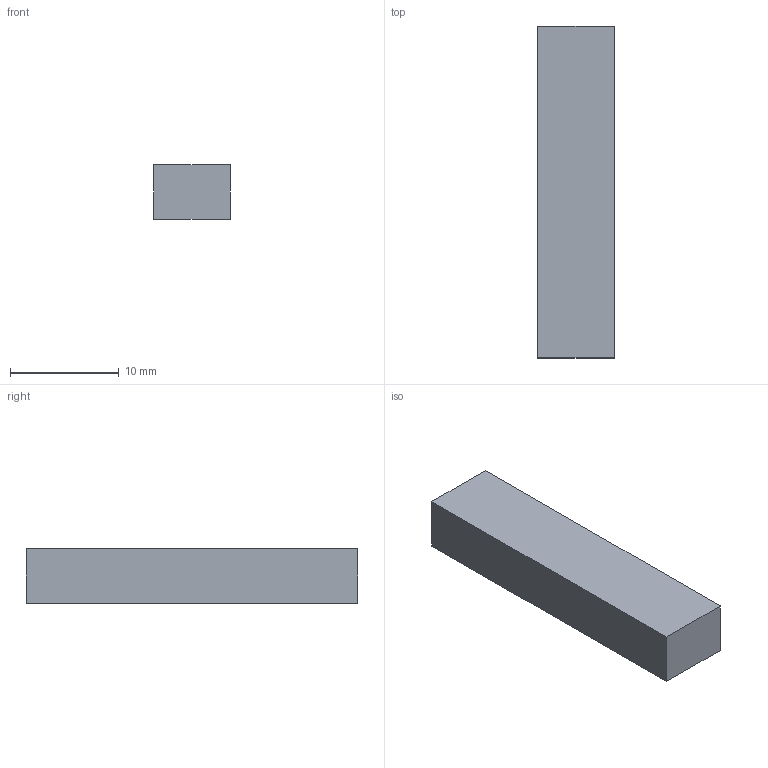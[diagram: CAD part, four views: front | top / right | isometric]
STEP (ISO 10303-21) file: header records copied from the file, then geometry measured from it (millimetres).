
FILE_DESCRIPTION(('STEP AP214'),'1');
FILE_NAME('tmp0.step','2025-05-17T13:35:15',(' '),(' '),'Spatial InterOp 3D',' ',' ');
FILE_SCHEMA(('AUTOMOTIVE_DESIGN { 1 0 10303 214 1 1 1 1 }'));
Length unit declared in the file: millimetre
Products named in the file (1): 1
Bounding box: 7 x 30.5 x 5 mm (x, y, z)
Volume: 1067.5 mm3; surface area: 802 mm2
Topology: 1 solids, 1 shells, 6 faces, 12 edges, 8 vertices
Faces by surface type: plane 6
Entity records: 181 total; most frequent: CARTESIAN_POINT 27, DIRECTION 26, ORIENTED_EDGE 24, EDGE_CURVE 12, LINE 12, VECTOR 12, VERTEX_POINT 8, AXIS2_PLACEMENT_3D 7
